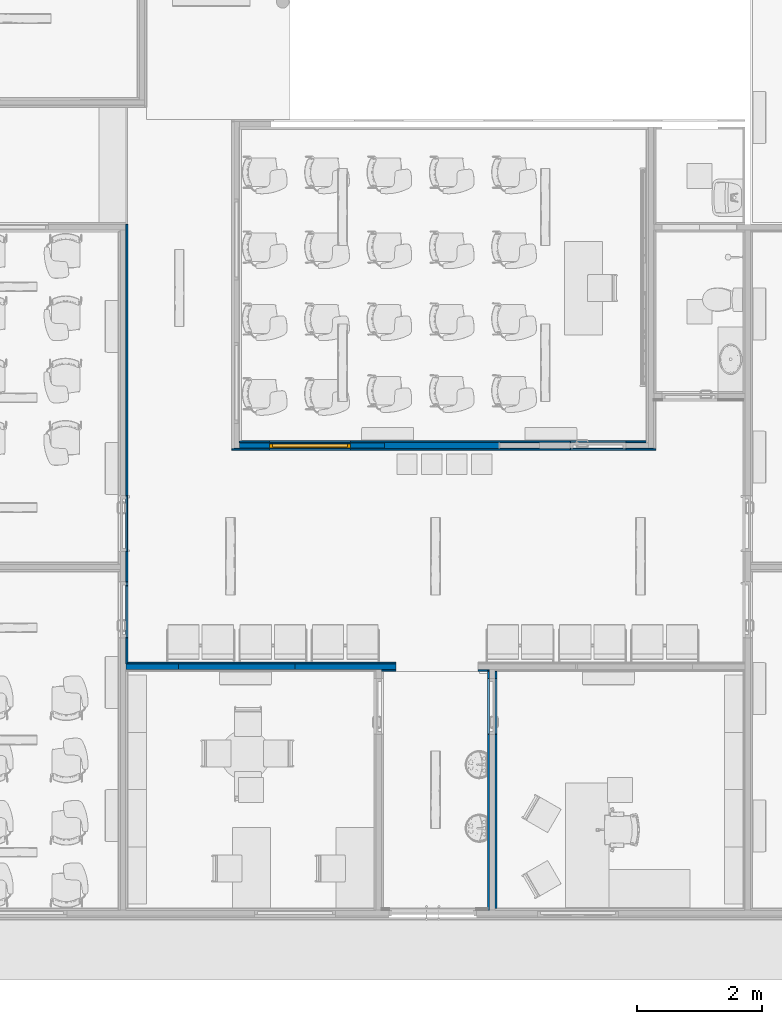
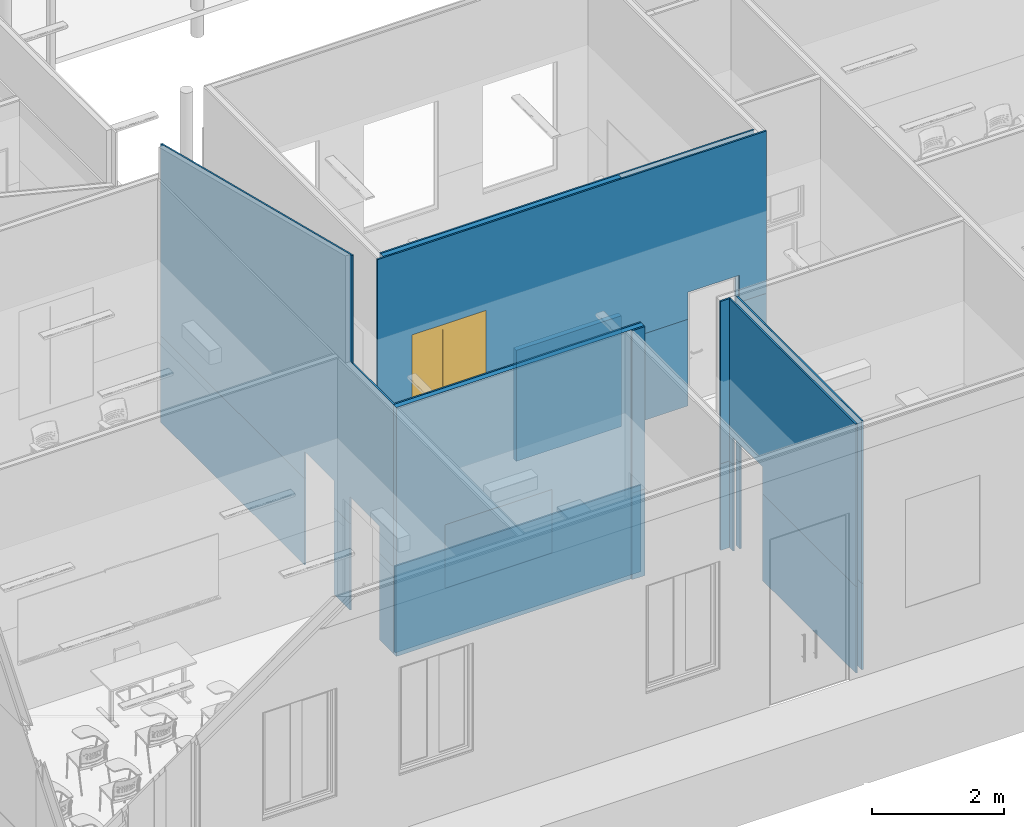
# One storey, part 11 of 155: 20 walls, 1 window, 20 openings.
"""IFC2X3 building model written with IfcOpenShell, lengths in metres."""

from ifc_helpers import new_model, entity, si_unit, converted_unit, derived_unit, direction, frame, frame_2d, origin, origin_2d_with_axis, place, context, subcontext, project, spatial, polyline, rectangle, outline, extrude, clip, bounded_halfspace, source, transform, mapped, material, layer, layer_set, layer_usage, type_object, type_shapes, element, fill, save


model = new_model("IFC2X3")

# Units and contexts
model_context = context("Model", 3, precision=1e-05, world=origin(), true_north=direction((6.12303176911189e-17, 1.0)))
body_context = subcontext(model_context, "Body", "Model", "MODEL_VIEW")
ifc_project = project(units=[si_unit("LENGTHUNIT", "METRE"), si_unit("AREAUNIT", "SQUARE_METRE"), si_unit("VOLUMEUNIT", "CUBIC_METRE"), converted_unit("PLANEANGLEUNIT", "DEGREE", entity("IfcRatioMeasure", 0.0174532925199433), si_unit("PLANEANGLEUNIT", "RADIAN"), dimensions=[0, 0, 0, 0, 0, 0, 0]), si_unit("MASSUNIT", "GRAM", prefix="KILO"), derived_unit("MASSDENSITYUNIT", [(si_unit("MASSUNIT", "GRAM", prefix="KILO"), 1), (si_unit("LENGTHUNIT", "METRE"), -3)]), si_unit("TIMEUNIT", "SECOND"), si_unit("FREQUENCYUNIT", "HERTZ"), si_unit("THERMODYNAMICTEMPERATUREUNIT", "DEGREE_CELSIUS"), derived_unit("THERMALTRANSMITTANCEUNIT", [(si_unit("MASSUNIT", "GRAM", prefix="KILO"), 1), (si_unit("THERMODYNAMICTEMPERATUREUNIT", "KELVIN"), -1), (si_unit("TIMEUNIT", "SECOND"), -3)]), derived_unit("VOLUMETRICFLOWRATEUNIT", [(si_unit("LENGTHUNIT", "METRE"), 3), (si_unit("TIMEUNIT", "SECOND"), -1)]), si_unit("ELECTRICCURRENTUNIT", "AMPERE"), si_unit("ELECTRICVOLTAGEUNIT", "VOLT"), si_unit("POWERUNIT", "WATT"), si_unit("FORCEUNIT", "NEWTON", prefix="KILO"), si_unit("ILLUMINANCEUNIT", "LUX"), si_unit("LUMINOUSFLUXUNIT", "LUMEN"), si_unit("LUMINOUSINTENSITYUNIT", "CANDELA"), derived_unit("USERDEFINED", [(si_unit("MASSUNIT", "GRAM", prefix="KILO"), -1), (si_unit("LENGTHUNIT", "METRE"), -2), (si_unit("TIMEUNIT", "SECOND"), 3), (si_unit("LUMINOUSFLUXUNIT", "LUMEN"), 1)]), derived_unit("LINEARVELOCITYUNIT", [(si_unit("LENGTHUNIT", "METRE"), 1), (si_unit("TIMEUNIT", "SECOND"), -1)]), si_unit("PRESSUREUNIT", "PASCAL"), derived_unit("USERDEFINED", [(si_unit("LENGTHUNIT", "METRE"), -2), (si_unit("MASSUNIT", "GRAM", prefix="KILO"), 1), (si_unit("TIMEUNIT", "SECOND"), -2)])], contexts=[model_context])

# Site, building, storey
site_placement = place(None, frame((26.9889013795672, -17.5624287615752, 0.0)))
site = spatial("IfcSite", under=ifc_project, at=site_placement, Name="Default", CompositionType="ELEMENT")
building_placement = place(site_placement, origin())
building = spatial("IfcBuilding", under=site, at=building_placement, Name="C. C. L. Monsenhor Antônio Sampaio", CompositionType="ELEMENT")
storey_placement = place(building_placement, frame((0.0, 0.0, 1.19999999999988)))
storey = spatial("IfcBuildingStorey", under=building, at=storey_placement, Name="Nível 1.2", CompositionType="ELEMENT", Elevation=1.19999999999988)

# Wall, opening
ifc_material_1 = material(Name="ALVENARIA")
ifc_layer_1 = layer(ifc_material_1, 0.09)
ifc_layer_set_1 = layer_set([ifc_layer_1], Name="Parede básica:ENucleo parede 15cm")
ifc_layer_usage_1 = layer_usage(ifc_layer_set_1, "AXIS2", "POSITIVE", -0.045)
wall_type_1 = type_object("IfcWallType", Name="Parede básica:ENucleo parede 15cm", PredefinedType="STANDARD", material=ifc_layer_set_1)
wall_1_placement = place(storey_placement, frame((-6.17055229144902, -35.4280663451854, 0.0)))
wall_1 = element("IfcWallStandardCase", 1, at=wall_1_placement, inside=storey, type_object=wall_type_1, material=ifc_layer_usage_1, Name="Parede básica:ENucleo parede 15cm", ObjectType="Parede básica:ENucleo parede 15cm", context=body_context, shape_type="SweptSolid", body=[
    extrude(rectangle(XDim=4.3300000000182, YDim=0.0899999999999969, at=frame_2d((2.1650000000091, -1.28369537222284e-16), x_axis=(-1.0, 0.0))), origin(), (0.0, 0.0, 1.0), 4.60000000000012),
])
opening_1_placement = place(wall_1_placement, frame((6.17055229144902, 35.4280663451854, 0.0)))
element("IfcOpeningElement", 2, at=opening_1_placement, cuts=wall_1, Name="Parede básica:ENucleo parede 15cm", ObjectType="Opening", context=body_context, shape_type="SweptSolid", body=[
    extrude(rectangle(XDim=1.17000000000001, YDim=1.87, at=frame_2d((0.0, -4.44089209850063e-16), x_axis=(0.0, 1.0))), frame((-4.39055229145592, -36.9070663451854, 1.55000000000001), z_axis=(0.0, 1.0, 0.0), x_axis=(-1.0, 0.0, 0.0)), (0.0, 0.0, 1.0), 3.048),
])

# Wall, openings, window
ifc_layer_usage_2 = layer_usage(ifc_layer_set_1, "AXIS2", "POSITIVE", -0.045)
wall_2_placement = place(storey_placement, frame((-0.190552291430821, -31.8780663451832, 0.0), z_axis=(0.0, 0.0, 1.0), x_axis=(-1.0, 0.0, 0.0)))
wall_2 = element("IfcWallStandardCase", 3, at=wall_2_placement, inside=storey, type_object=wall_type_1, material=ifc_layer_usage_2, Name="Parede básica:ENucleo parede 15cm", ObjectType="Parede básica:ENucleo parede 15cm", context=body_context, shape_type="SweptSolid", body=[
    extrude(rectangle(XDim=4.1600000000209, YDim=0.0899999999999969, at=frame_2d((2.08000000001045, 2.77555756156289e-16), x_axis=(-1.0, 0.0))), origin(), (0.0, 0.0, 1.0), 4.60000000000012),
])
opening_2_placement = place(wall_2_placement, origin())
element("IfcOpeningElement", 4, at=opening_2_placement, cuts=wall_2, Name="Parede básica:ENucleo parede 15cm", ObjectType="Opening", context=body_context, shape_type="SweptSolid", body=[
    extrude(rectangle(XDim=2.0, YDim=1.30000000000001, at=frame_2d((1.66533453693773e-16, 0.0), x_axis=(1.0, 0.0))), frame((-1.29998629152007, -1.569, 2.0), z_axis=(0.0, 1.0, 0.0), x_axis=(0.0, 0.0, 1.0)), (0.0, 0.0, 1.0), 3.048),
])
opening_3_placement = place(wall_2_placement, origin())
element("IfcOpeningElement", 5, at=opening_3_placement, cuts=wall_2, Name="Parede básica:ENucleo parede 15cm", ObjectType="Opening", context=body_context, shape_type="SweptSolid", body=[
    extrude(rectangle(XDim=2.09999999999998, YDim=0.9, at=frame_2d((-3.33066907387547e-16, 0.0), x_axis=(1.0, 0.0))), frame((-1.59498629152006, -1.569, 1.04999999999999), z_axis=(0.0, 1.0, 0.0), x_axis=(0.0, 0.0, 1.0)), (0.0, 0.0, 1.0), 3.048),
])
opening_4_placement = place(wall_2_placement, frame((-0.190552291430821, -31.8780663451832, 0.0), z_axis=(0.0, 0.0, 1.0), x_axis=(-1.0, 0.0, 0.0)))
element("IfcOpeningElement", 6, at=opening_4_placement, cuts=wall_2, Name="Parede básica:ENucleo parede 15cm", ObjectType="Opening", context=body_context, shape_type="SweptSolid", body=[
    extrude(rectangle(XDim=2.05, YDim=1.85, at=frame_2d((0.0, 0.0), x_axis=(0.0, 1.0))), frame((-1.10055229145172, -30.3990663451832, 1.025), z_axis=(0.0, -1.0, 0.0), x_axis=(1.0, 0.0, 0.0)), (0.0, 0.0, 1.0), 3.048),
])
opening_5_placement = place(wall_2_placement, frame((2.38000000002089, -0.0450000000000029, 1.0)))
opening_5 = element("IfcOpeningElement", 7, at=opening_5_placement, cuts=wall_2, Name="Janela levantamento:130 x 200cm 2:1", ObjectType="Opening", context=body_context, shape_type="SweptSolid", body=[
    extrude(rectangle(XDim=2.0, YDim=1.30000000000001, at=frame_2d((0.999999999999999, 0.650000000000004), x_axis=(1.0, 0.0))), frame((0.0, 0.0, 0.0), z_axis=(0.0, 1.0, 0.0), x_axis=(0.0, 0.0, 1.0)), (0.0, 0.0, 1.0), 0.09),
])
ifc_material_2 = material(Name="Pintura Azul")
window_style = type_object("IfcWindowStyle", Name="130 x 200cm 2", ConstructionType="NOTDEFINED", OperationType="NOTDEFINED", ParameterTakesPrecedence=False, Sizeable=False, material=ifc_material_2)
shared_shape = source(origin(), body_context, "Body", "SweptSolid", [
    extrude(rectangle(XDim=1.3, YDim=0.0209999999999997, at=frame_2d((0.0, 4.33680868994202e-18), x_axis=(1.0, 0.0))), frame((0.650000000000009, 0.0795000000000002, 0.0)), (0.0, 0.0, 1.0), 0.0299999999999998),
    extrude(outline(polyline([(-0.325000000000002, -1.0), (0.325000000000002, -1.0), (0.325000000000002, 1.0), (-0.325000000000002, 1.0), (-0.325000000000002, -1.0)]), holes=[polyline([(0.225000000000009, -0.899999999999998), (-0.225000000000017, -0.899999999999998), (-0.225000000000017, 0.900000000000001), (0.225000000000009, 0.900000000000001), (0.225000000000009, -0.899999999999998)])]), frame((0.325000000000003, 0.0690000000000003, 1.0), z_axis=(0.0, 1.0, 0.0), x_axis=(1.0, 0.0, 0.0)), (0.0, 0.0, 1.0), 0.04),
    extrude(outline(polyline([(-0.650000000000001, -1.0), (0.650000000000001, -1.0), (0.650000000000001, 1.0), (-0.650000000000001, 1.0), (-0.650000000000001, -1.0)]), holes=[polyline([(-0.599999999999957, -0.949999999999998), (-0.599999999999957, 0.94), (0.600000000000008, 0.94), (0.600000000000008, -0.949999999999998), (-0.599999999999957, -0.949999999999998)])]), frame((0.650000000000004, 0.019, 1.0), z_axis=(0.0, 1.0, 0.0), x_axis=(1.0, 0.0, 0.0)), (0.0, 0.0, 1.0), 0.05),
    extrude(rectangle(XDim=0.0205880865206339, YDim=0.450000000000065, at=origin_2d_with_axis()), frame((0.324999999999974, 0.0987059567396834, 0.0999999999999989), z_axis=(0.0, 0.0, 1.0), x_axis=(0.0, 1.0, 0.0)), (0.0, 0.0, 1.0), 1.8),
    extrude(rectangle(XDim=0.0205880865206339, YDim=0.449999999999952, at=frame_2d((0.0, 4.16333634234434e-17), x_axis=(1.0, 0.0))), frame((0.977826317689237, 0.0987059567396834, 0.100000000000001), z_axis=(0.0, 0.0, 1.0), x_axis=(0.0, 1.0, 0.0)), (0.0, 0.0, 1.0), 1.8),
    extrude(outline(polyline([(-1.0, -0.325000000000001), (1.0, -0.325000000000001), (1.0, 0.325000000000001), (-1.0, 0.325000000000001), (-1.0, -0.325000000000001)]), holes=[polyline([(-0.899999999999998, 0.224999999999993), (0.900000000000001, 0.224999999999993), (0.900000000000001, -0.225000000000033), (-0.899999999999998, -0.225000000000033), (-0.899999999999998, 0.224999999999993)])]), frame((0.975000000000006, 0.0690000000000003, 1.0), z_axis=(0.0, 1.0, 0.0), x_axis=(0.0, 0.0, -1.0)), (0.0, 0.0, 1.0), 0.04),
])
type_shapes(window_style, [shared_shape])
window_placement = place(opening_5_placement, origin())
window = element("IfcWindow", 8, at=window_placement, inside=storey, type_object=window_style, material=ifc_material_2, Name="Janela levantamento:130 x 200cm 2", ObjectType="130 x 200cm 2", OverallHeight=2.0, OverallWidth=1.30000000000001, context=body_context, shape_type="MappedRepresentation", body=[
    mapped(shared_shape, transform((0.0, 0.0, 0.0), scale=1.0)),
])
fill(opening_5, window)

# Wall
ifc_layer_usage_3 = layer_usage(ifc_layer_set_1, "AXIS2", "POSITIVE", -0.045)
wall_3_placement = place(storey_placement, frame((-5.32555229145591, -35.4280663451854, 0.965000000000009)))
element("IfcWallStandardCase", 9, at=wall_3_placement, inside=storey, type_object=wall_type_1, material=ifc_layer_usage_3, Name="Parede básica:ENucleo parede 15cm", ObjectType="Parede básica:ENucleo parede 15cm", context=body_context, shape_type="SweptSolid", body=[
    extrude(rectangle(XDim=1.87, YDim=0.0900000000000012, at=origin_2d_with_axis()), frame((0.934999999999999, 0.0, 0.0), z_axis=(0.0, 0.0, 1.0), x_axis=(-1.0, 0.0, 0.0)), (0.0, 0.0, 1.0), 1.17000000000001),
])

# Wall, opening
ifc_layer_usage_4 = layer_usage(ifc_layer_set_1, "AXIS2", "POSITIVE", -0.045)
wall_4_placement = place(storey_placement, frame((-0.190552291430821, -31.8780663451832, 0.0), z_axis=(0.0, 0.0, 1.0), x_axis=(-1.0, 0.0, 0.0)))
wall_4 = element("IfcWallStandardCase", 10, at=wall_4_placement, inside=storey, type_object=wall_type_1, material=ifc_layer_usage_4, Name="Parede básica:ENucleo parede 15cm", ObjectType="Parede básica:ENucleo parede 15cm", context=body_context, shape_type="SweptSolid", body=[
    extrude(rectangle(XDim=1.8350000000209, YDim=0.0899999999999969, at=frame_2d((0.917500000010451, 8.22258927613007e-16), x_axis=(-1.0, 0.0))), origin(), (0.0, 0.0, 1.0), 2.05),
])
opening_6_placement = place(wall_4_placement, origin())
element("IfcOpeningElement", 11, at=opening_6_placement, cuts=wall_4, Name="Parede básica:ENucleo parede 15cm", ObjectType="Opening", context=body_context, shape_type="SweptSolid", body=[
    extrude(rectangle(XDim=2.09999999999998, YDim=0.9, at=frame_2d((-3.33066907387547e-16, 0.0), x_axis=(1.0, 0.0))), frame((-1.59498629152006, -1.569, 1.04999999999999), z_axis=(0.0, 1.0, 0.0), x_axis=(0.0, 0.0, 1.0)), (0.0, 0.0, 1.0), 3.048),
])

# Walls
ifc_material_3 = material(Name=".CERÂMICA 10x10 BRANCA")
ifc_layer_2 = layer(ifc_material_3, 0.0035)
ifc_material_4 = material(Name="Argamassa Colante")
ifc_layer_3 = layer(ifc_material_4, 0.02)
ifc_material_5 = material(Name="4")
ifc_layer_4 = layer(ifc_material_5, 0.0015)
ifc_material_6 = material(Name="3")
ifc_layer_5 = layer(ifc_material_6, 0.005)
ifc_layer_set_2 = layer_set([ifc_layer_2, ifc_layer_3, ifc_layer_4, ifc_layer_5], Name="Parede básica:ECeramica branca 10x10cm")
wall_type_2 = type_object("IfcWallType", Name="Parede básica:ECeramica branca 10x10cm", PredefinedType="STANDARD", material=ifc_layer_set_2)
wall_5_placement = place(storey_placement, frame((-6.15555229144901, -28.333066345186, 0.0), z_axis=(0.0, 0.0, 1.0), x_axis=(0.0, -1.0, 0.0)))
element("IfcWall", 12, at=wall_5_placement, inside=storey, type_object=wall_type_2, Name="Parede básica:ECeramica branca 10x10cm", ObjectType="Parede básica:ECeramica branca 10x10cm", context=body_context, shape_type="SweptSolid", body=[
    extrude(rectangle(XDim=4.35000000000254, YDim=0.0299999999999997, at=frame_2d((0.41700000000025, 0.00299999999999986), x_axis=(1.0, 0.0))), frame((1.75800000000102, -0.00299999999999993, 0.0)), (0.0, 0.0, 1.0), 1.6),
    extrude(rectangle(XDim=0.42, YDim=0.0299999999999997, at=frame_2d((0.0360000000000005, 0.00299999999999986), x_axis=(1.0, 0.0))), frame((6.87599999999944, 0.0030000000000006, 0.0), z_axis=(0.0, 0.0, 1.0), x_axis=(-1.0, 0.0, 0.0)), (0.0, 0.0, 1.0), 1.6),
    extrude(rectangle(XDim=0.479999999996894, YDim=0.0299999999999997, at=frame_2d((0.0, 5.41233724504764e-16), x_axis=(1.0, 0.0))), frame((5.49000000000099, 0.0, 0.0), z_axis=(0.0, 0.0, 1.0), x_axis=(-1.0, 0.0, 0.0)), (0.0, 0.0, 1.0), 1.6),
])
ifc_layer_usage_5 = layer_usage(ifc_layer_set_2, "AXIS2", "NEGATIVE", 0.015)
wall_6_placement = place(storey_placement, frame((-6.14055229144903, -35.3680663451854, 0.0)))
element("IfcWallStandardCase", 13, at=wall_6_placement, inside=storey, type_object=wall_type_2, material=ifc_layer_usage_5, Name="Parede básica:ECeramica branca 10x10cm", ObjectType="Parede básica:ECeramica branca 10x10cm", context=body_context, shape_type="SweptSolid", body=[
    extrude(rectangle(XDim=4.3, YDim=0.0300000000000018, at=frame_2d((2.15, 8.76035355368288e-17), x_axis=(-1.0, 0.0))), origin(), (0.0, 0.0, 1.0), 1.6),
])

# Wall, openings
ifc_layer_usage_6 = layer_usage(ifc_layer_set_2, "AXIS2", "NEGATIVE", 0.015)
wall_7_placement = place(storey_placement, frame((2.32943400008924, -31.9380663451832, 0.0), z_axis=(0.0, 0.0, 1.0), x_axis=(-1.0, 0.0, 0.0)))
wall_7 = element("IfcWallStandardCase", 14, at=wall_7_placement, inside=storey, type_object=wall_type_2, material=ifc_layer_usage_6, Name="Parede básica:ECeramica branca 10x10cm", ObjectType="Parede básica:ECeramica branca 10x10cm", context=body_context, shape_type="SweptSolid", body=[
    extrude(rectangle(XDim=6.79998629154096, YDim=0.0300000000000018, at=frame_2d((3.39999314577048, 9.62771529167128e-17), x_axis=(-1.0, 0.0))), origin(), (0.0, 0.0, 1.0), 1.6),
])
opening_7_placement = place(wall_7_placement, origin())
element("IfcOpeningElement", 15, at=opening_7_placement, cuts=wall_7, Name="Parede básica:ECeramica branca 10x10cm", ObjectType="Opening", context=body_context, shape_type="SweptSolid", body=[
    extrude(rectangle(XDim=2.0, YDim=1.30000000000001, at=frame_2d((1.66533453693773e-16, 0.0), x_axis=(1.0, 0.0))), frame((5.54998629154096, -1.629, 2.0), z_axis=(0.0, 1.0, 0.0), x_axis=(0.0, 0.0, 1.0)), (0.0, 0.0, 1.0), 3.048),
])
opening_8_placement = place(wall_7_placement, origin())
element("IfcOpeningElement", 16, at=opening_8_placement, cuts=wall_7, Name="Parede básica:ECeramica branca 10x10cm", ObjectType="Opening", context=body_context, shape_type="SweptSolid", body=[
    extrude(rectangle(XDim=2.09999999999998, YDim=0.9, at=frame_2d((-3.33066907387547e-16, 0.0), x_axis=(1.0, 0.0))), frame((0.924999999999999, -1.629, 1.04999999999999), z_axis=(0.0, 1.0, 0.0), x_axis=(0.0, 0.0, 1.0)), (0.0, 0.0, 1.0), 3.048),
])

# Wall, opening
ifc_layer_usage_7 = layer_usage(ifc_layer_set_2, "AXIS2", "NEGATIVE", 0.015)
wall_8_placement = place(storey_placement, frame((-0.235552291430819, -35.5030663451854, 0.0), z_axis=(0.0, 0.0, 1.0), x_axis=(0.0, -1.0, 0.0)))
wall_8 = element("IfcWallStandardCase", 17, at=wall_8_placement, inside=storey, type_object=wall_type_2, material=ifc_layer_usage_7, Name="Parede básica:ECeramica branca 10x10cm", ObjectType="Parede básica:ECeramica branca 10x10cm", context=body_context, shape_type="SweptSolid", body=[
    extrude(rectangle(XDim=3.80000000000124, YDim=0.03, at=frame_2d((1.90000000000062, 0.0), x_axis=(-1.0, 0.0))), origin(), (0.0, 0.0, 1.0), 1.6),
])
opening_9_placement = place(wall_8_placement, origin())
element("IfcOpeningElement", 18, at=opening_9_placement, cuts=wall_8, Name="Parede básica:ECeramica branca 10x10cm", ObjectType="Opening", context=body_context, shape_type="SweptSolid", body=[
    extrude(rectangle(XDim=2.09999999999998, YDim=0.899999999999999, at=frame_2d((-3.33066907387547e-16, -2.16493489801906e-15), x_axis=(1.0, 0.0))), frame((0.560000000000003, -1.539, 1.04999999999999), z_axis=(0.0, 1.0, 0.0), x_axis=(0.0, 0.0, 1.0)), (0.0, 0.0, 1.0), 3.048),
])

ifc_layer_usage_8 = layer_usage(ifc_layer_set_2, "AXIS2", "POSITIVE", -0.015)
wall_9_placement = place(storey_placement, frame((-0.355552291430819, -35.4730663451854, 0.0), z_axis=(0.0, 0.0, 1.0), x_axis=(0.0, -1.0, 0.0)))
wall_9 = element("IfcWallStandardCase", 19, at=wall_9_placement, inside=storey, type_object=wall_type_2, material=ifc_layer_usage_8, Name="Parede básica:ECeramica branca 10x10cm", ObjectType="Parede básica:ECeramica branca 10x10cm", context=body_context, shape_type="SweptSolid", body=[
    extrude(rectangle(XDim=3.86000000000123, YDim=0.0299999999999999, at=frame_2d((1.93000000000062, -9.54097911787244e-18), x_axis=(-1.0, 0.0))), origin(), (0.0, 0.0, 1.0), 1.6),
])
opening_10_placement = place(wall_9_placement, origin())
element("IfcOpeningElement", 20, at=opening_10_placement, cuts=wall_9, Name="Parede básica:ECeramica branca 10x10cm", ObjectType="Opening", context=body_context, shape_type="SweptSolid", body=[
    extrude(rectangle(XDim=2.09999999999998, YDim=0.899999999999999, at=frame_2d((-3.33066907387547e-16, -2.16493489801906e-15), x_axis=(1.0, 0.0))), frame((0.590000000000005, -1.419, 1.04999999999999), z_axis=(0.0, 1.0, 0.0), x_axis=(0.0, 0.0, 1.0)), (0.0, 0.0, 1.0), 3.048),
])

# Wall, openings
ifc_layer_usage_9 = layer_usage(ifc_layer_set_2, "AXIS2", "POSITIVE", -0.015)
wall_10_placement = place(storey_placement, frame((2.17943400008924, -31.8180663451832, 0.0), z_axis=(0.0, 0.0, 1.0), x_axis=(-1.0, 0.0, 0.0)))
wall_10 = element("IfcWallStandardCase", 21, at=wall_10_placement, inside=storey, type_object=wall_type_2, material=ifc_layer_usage_9, Name="Parede básica:ECeramica branca 10x10cm", ObjectType="Parede básica:ECeramica branca 10x10cm", context=body_context, shape_type="SweptSolid", body=[
    extrude(rectangle(XDim=6.52998629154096, YDim=0.0300000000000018, at=frame_2d((3.26499314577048, 0.0), x_axis=(-1.0, 0.0))), origin(), (0.0, 0.0, 1.0), 1.6),
])
opening_11_placement = place(wall_10_placement, origin())
element("IfcOpeningElement", 22, at=opening_11_placement, cuts=wall_10, Name="Parede básica:ECeramica branca 10x10cm", ObjectType="Opening", context=body_context, shape_type="SweptSolid", body=[
    extrude(rectangle(XDim=2.0, YDim=1.30000000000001, at=frame_2d((1.66533453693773e-16, 0.0), x_axis=(1.0, 0.0))), frame((5.39998629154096, -1.50899999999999, 2.0), z_axis=(0.0, 1.0, 0.0), x_axis=(0.0, 0.0, 1.0)), (0.0, 0.0, 1.0), 3.048),
])
opening_12_placement = place(wall_10_placement, origin())
element("IfcOpeningElement", 23, at=opening_12_placement, cuts=wall_10, Name="Parede básica:ECeramica branca 10x10cm", ObjectType="Opening", context=body_context, shape_type="SweptSolid", body=[
    extrude(rectangle(XDim=2.09999999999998, YDim=0.9, at=frame_2d((-3.33066907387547e-16, 0.0), x_axis=(1.0, 0.0))), frame((0.775, -1.509, 1.04999999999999), z_axis=(0.0, 1.0, 0.0), x_axis=(0.0, 0.0, 1.0)), (0.0, 0.0, 1.0), 3.048),
])

# Walls
ifc_layer_usage_10 = layer_usage(ifc_layer_set_2, "AXIS2", "POSITIVE", -0.015)
wall_11_placement = place(storey_placement, frame((-0.520552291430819, -35.4880663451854, 0.0)))
element("IfcWallStandardCase", 24, at=wall_11_placement, inside=storey, type_object=wall_type_2, material=ifc_layer_usage_10, Name="Parede básica:ECeramica branca 10x10cm", ObjectType="Parede básica:ECeramica branca 10x10cm", context=body_context, shape_type="SweptSolid", body=[
    extrude(rectangle(XDim=0.150000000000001, YDim=0.0300000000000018, at=frame_2d((0.0750000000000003, 1.88217497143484e-16), x_axis=(-1.0, 0.0))), origin(), (0.0, 0.0, 1.0), 1.6),
])
ifc_layer_usage_11 = layer_usage(ifc_layer_set_2, "AXIS2", "NEGATIVE", 0.015)
wall_12_placement = place(storey_placement, frame((-1.84055229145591, -35.4880663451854, 0.0), z_axis=(0.0, 0.0, 1.0), x_axis=(-1.0, 0.0, 0.0)))
element("IfcWallStandardCase", 25, at=wall_12_placement, inside=storey, type_object=wall_type_2, material=ifc_layer_usage_11, Name="Parede básica:ECeramica branca 10x10cm", ObjectType="Parede básica:ECeramica branca 10x10cm", context=body_context, shape_type="SweptSolid", body=[
    extrude(rectangle(XDim=0.23, YDim=0.0300000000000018, at=frame_2d((0.115, 2.92300905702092e-16), x_axis=(-1.0, 0.0))), origin(), (0.0, 0.0, 1.0), 1.6),
])

# Wall, openings
ifc_material_7 = material(Name="Acabamento Branco")
ifc_layer_6 = layer(ifc_material_7, 0.0035)
ifc_material_8 = material(Name="Massa corrida")
ifc_layer_7 = layer(ifc_material_8, 0.02)
ifc_layer_8 = layer(ifc_material_5, 0.0015)
ifc_layer_9 = layer(ifc_material_6, 0.005)
ifc_layer_set_3 = layer_set([ifc_layer_6, ifc_layer_7, ifc_layer_8, ifc_layer_9], Name="Parede básica:EPintura Branca")
ifc_layer_usage_12 = layer_usage(ifc_layer_set_3, "AXIS2", "NEGATIVE", 0.015)
wall_type_3 = type_object("IfcWallType", Name="Parede básica:EPintura Branca", PredefinedType="STANDARD", material=ifc_layer_set_3)
wall_13_placement = place(storey_placement, frame((-6.15555229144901, -28.333066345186, 1.6), z_axis=(0.0, 0.0, 1.0), x_axis=(0.0, -1.0, 0.0)))
wall_13 = element("IfcWallStandardCase", 26, at=wall_13_placement, inside=storey, type_object=wall_type_3, material=ifc_layer_usage_12, Name="Parede básica:EPintura Branca", ObjectType="Parede básica:EPintura Branca", context=body_context, shape_type="Clipping", body=[
    clip(clip(extrude(rectangle(XDim=7.04999999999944, YDim=0.0299999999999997, at=frame_2d((3.52499999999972, 2.77555756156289e-17), x_axis=(-1.0, 0.0))), origin(), (0.0, 0.0, 1.0), 4.99375000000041), bounded_halfspace(frame((0.0, -0.0149999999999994, 3.54500000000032), z_axis=(-0.242535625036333, 0.0, 0.970142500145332), x_axis=(0.0, -1.0, 0.0)), False, frame((0.0, -0.0149999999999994, 3.54500000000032)), polyline([(0.0, 0.0), (0.0900000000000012, 0.0), (5.74000000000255, 0.0), (5.79500000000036, 0.0), (5.79500000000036, 0.0299999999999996), (0.0, 0.0299999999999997), (0.0, 0.0)]))), bounded_halfspace(frame((7.04999999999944, -0.0149999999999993, 3.0), z_axis=(0.0, 0.0, 1.0), x_axis=(0.0, 1.0, 0.0)), False, frame((7.04999999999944, -0.0149999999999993, 3.0)), polyline([(0.0, 0.0), (0.0, 0.0299999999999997), (-0.0299999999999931, 0.0299999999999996), (-1.25499999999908, 0.0299999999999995), (-1.25499999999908, 0.0), (0.0, 0.0)]))),
])
opening_13_placement = place(wall_13_placement, origin())
element("IfcOpeningElement", 27, at=opening_13_placement, cuts=wall_13, Name="Parede básica:EPintura Branca", ObjectType="Opening", context=body_context, shape_type="SweptSolid", body=[
    extrude(rectangle(XDim=2.09999999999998, YDim=0.899999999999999, at=frame_2d((-3.33066907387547e-16, 2.16493489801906e-15), x_axis=(1.0, 0.0))), frame((6.17999999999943, -1.629, -0.550000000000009), z_axis=(0.0, 1.0, 0.0), x_axis=(0.0, 0.0, 1.0)), (0.0, 0.0, 1.0), 3.048),
])
opening_14_placement = place(wall_13_placement, origin())
element("IfcOpeningElement", 28, at=opening_14_placement, cuts=wall_13, Name="Parede básica:EPintura Branca", ObjectType="Opening", context=body_context, shape_type="SweptSolid", body=[
    extrude(rectangle(XDim=2.09999999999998, YDim=0.900000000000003, at=frame_2d((0.0, 0.0), x_axis=(0.0, 1.0))), frame((4.80000000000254, -1.629, -0.550000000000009), z_axis=(0.0, 1.0, 0.0), x_axis=(-1.0, 0.0, 0.0)), (0.0, 0.0, 1.0), 3.048),
])

# Wall
ifc_layer_usage_13 = layer_usage(ifc_layer_set_3, "AXIS2", "NEGATIVE", 0.015)
wall_14_placement = place(storey_placement, frame((-6.14055229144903, -35.3680663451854, 1.6)))
element("IfcWallStandardCase", 29, at=wall_14_placement, inside=storey, type_object=wall_type_3, material=ifc_layer_usage_13, Name="Parede básica:EPintura Branca", ObjectType="Parede básica:EPintura Branca", context=body_context, shape_type="SweptSolid", body=[
    extrude(rectangle(XDim=4.3, YDim=0.0300000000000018, at=frame_2d((2.15, 8.76035355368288e-17), x_axis=(-1.0, 0.0))), origin(), (0.0, 0.0, 1.0), 3.00000000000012),
])

# Wall, openings
ifc_layer_usage_14 = layer_usage(ifc_layer_set_3, "AXIS2", "NEGATIVE", 0.015)
wall_15_placement = place(storey_placement, frame((2.32943400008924, -31.9380663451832, 1.6), z_axis=(0.0, 0.0, 1.0), x_axis=(-1.0, 0.0, 0.0)))
wall_15 = element("IfcWallStandardCase", 30, at=wall_15_placement, inside=storey, type_object=wall_type_3, material=ifc_layer_usage_14, Name="Parede básica:EPintura Branca", ObjectType="Parede básica:EPintura Branca", context=body_context, shape_type="SweptSolid", body=[
    extrude(rectangle(XDim=6.79998629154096, YDim=0.0300000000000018, at=frame_2d((3.39999314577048, 9.62771529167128e-17), x_axis=(-1.0, 0.0))), origin(), (0.0, 0.0, 1.0), 3.00000000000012),
])
opening_15_placement = place(wall_15_placement, origin())
element("IfcOpeningElement", 31, at=opening_15_placement, cuts=wall_15, Name="Parede básica:EPintura Branca", ObjectType="Opening", context=body_context, shape_type="SweptSolid", body=[
    extrude(rectangle(XDim=2.0, YDim=1.30000000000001, at=frame_2d((1.66533453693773e-16, 0.0), x_axis=(1.0, 0.0))), frame((5.54998629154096, -1.629, 0.400000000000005), z_axis=(0.0, 1.0, 0.0), x_axis=(0.0, 0.0, 1.0)), (0.0, 0.0, 1.0), 3.048),
])
opening_16_placement = place(wall_15_placement, origin())
element("IfcOpeningElement", 32, at=opening_16_placement, cuts=wall_15, Name="Parede básica:EPintura Branca", ObjectType="Opening", context=body_context, shape_type="SweptSolid", body=[
    extrude(rectangle(XDim=2.09999999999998, YDim=0.9, at=frame_2d((-3.33066907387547e-16, 0.0), x_axis=(1.0, 0.0))), frame((0.924999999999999, -1.629, -0.550000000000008), z_axis=(0.0, 1.0, 0.0), x_axis=(0.0, 0.0, 1.0)), (0.0, 0.0, 1.0), 3.048),
])

# Wall, opening
ifc_layer_usage_15 = layer_usage(ifc_layer_set_3, "AXIS2", "NEGATIVE", 0.015)
wall_16_placement = place(storey_placement, frame((-0.235552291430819, -35.5030663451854, 1.6), z_axis=(0.0, 0.0, 1.0), x_axis=(0.0, -1.0, 0.0)))
wall_16 = element("IfcWallStandardCase", 33, at=wall_16_placement, inside=storey, type_object=wall_type_3, material=ifc_layer_usage_15, Name="Parede básica:EPintura Branca", ObjectType="Parede básica:EPintura Branca", context=body_context, shape_type="SweptSolid", body=[
    extrude(rectangle(XDim=3.80000000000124, YDim=0.03, at=frame_2d((1.90000000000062, 0.0), x_axis=(-1.0, 0.0))), origin(), (0.0, 0.0, 1.0), 3.00000000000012),
])
opening_17_placement = place(wall_16_placement, origin())
element("IfcOpeningElement", 34, at=opening_17_placement, cuts=wall_16, Name="Parede básica:EPintura Branca", ObjectType="Opening", context=body_context, shape_type="SweptSolid", body=[
    extrude(rectangle(XDim=2.09999999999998, YDim=0.899999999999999, at=frame_2d((-3.33066907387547e-16, -2.16493489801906e-15), x_axis=(1.0, 0.0))), frame((0.560000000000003, -1.539, -0.550000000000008), z_axis=(0.0, 1.0, 0.0), x_axis=(0.0, 0.0, 1.0)), (0.0, 0.0, 1.0), 3.048),
])

ifc_layer_usage_16 = layer_usage(ifc_layer_set_3, "AXIS2", "POSITIVE", -0.015)
wall_17_placement = place(storey_placement, frame((-0.355552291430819, -35.5030663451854, 1.6), z_axis=(0.0, 0.0, 1.0), x_axis=(0.0, -1.0, 0.0)))
wall_17 = element("IfcWallStandardCase", 35, at=wall_17_placement, inside=storey, type_object=wall_type_3, material=ifc_layer_usage_16, Name="Parede básica:EPintura Branca", ObjectType="Parede básica:EPintura Branca", context=body_context, shape_type="SweptSolid", body=[
    extrude(rectangle(XDim=3.83000000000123, YDim=0.0299999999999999, at=frame_2d((1.91500000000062, 0.0), x_axis=(-1.0, 0.0))), origin(), (0.0, 0.0, 1.0), 3.00000000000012),
])
opening_18_placement = place(wall_17_placement, origin())
element("IfcOpeningElement", 36, at=opening_18_placement, cuts=wall_17, Name="Parede básica:EPintura Branca", ObjectType="Opening", context=body_context, shape_type="SweptSolid", body=[
    extrude(rectangle(XDim=2.09999999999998, YDim=0.899999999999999, at=frame_2d((-3.33066907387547e-16, -2.16493489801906e-15), x_axis=(1.0, 0.0))), frame((0.560000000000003, -1.419, -0.550000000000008), z_axis=(0.0, 1.0, 0.0), x_axis=(0.0, 0.0, 1.0)), (0.0, 0.0, 1.0), 3.048),
])

# Wall, openings
ifc_layer_usage_17 = layer_usage(ifc_layer_set_3, "AXIS2", "POSITIVE", -0.015)
wall_18_placement = place(storey_placement, frame((2.17943400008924, -31.8180663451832, 1.6), z_axis=(0.0, 0.0, 1.0), x_axis=(-1.0, 0.0, 0.0)))
wall_18 = element("IfcWallStandardCase", 37, at=wall_18_placement, inside=storey, type_object=wall_type_3, material=ifc_layer_usage_17, Name="Parede básica:EPintura Branca", ObjectType="Parede básica:EPintura Branca", context=body_context, shape_type="SweptSolid", body=[
    extrude(rectangle(XDim=6.52998629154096, YDim=0.0300000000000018, at=frame_2d((3.26499314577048, 0.0), x_axis=(-1.0, 0.0))), origin(), (0.0, 0.0, 1.0), 3.00000000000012),
])
opening_19_placement = place(wall_18_placement, origin())
element("IfcOpeningElement", 38, at=opening_19_placement, cuts=wall_18, Name="Parede básica:EPintura Branca", ObjectType="Opening", context=body_context, shape_type="SweptSolid", body=[
    extrude(rectangle(XDim=2.0, YDim=1.30000000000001, at=frame_2d((1.66533453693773e-16, 0.0), x_axis=(1.0, 0.0))), frame((5.39998629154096, -1.50899999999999, 0.400000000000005), z_axis=(0.0, 1.0, 0.0), x_axis=(0.0, 0.0, 1.0)), (0.0, 0.0, 1.0), 3.048),
])
opening_20_placement = place(wall_18_placement, origin())
element("IfcOpeningElement", 39, at=opening_20_placement, cuts=wall_18, Name="Parede básica:EPintura Branca", ObjectType="Opening", context=body_context, shape_type="SweptSolid", body=[
    extrude(rectangle(XDim=2.09999999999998, YDim=0.9, at=frame_2d((-3.33066907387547e-16, 0.0), x_axis=(1.0, 0.0))), frame((0.775, -1.509, -0.550000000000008), z_axis=(0.0, 1.0, 0.0), x_axis=(0.0, 0.0, 1.0)), (0.0, 0.0, 1.0), 3.048),
])

# Walls
ifc_layer_usage_18 = layer_usage(ifc_layer_set_3, "AXIS2", "POSITIVE", -0.015)
wall_19_placement = place(storey_placement, frame((-0.520552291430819, -35.4880663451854, 1.6)))
element("IfcWallStandardCase", 40, at=wall_19_placement, inside=storey, type_object=wall_type_3, material=ifc_layer_usage_18, Name="Parede básica:EPintura Branca", ObjectType="Parede básica:EPintura Branca", context=body_context, shape_type="SweptSolid", body=[
    extrude(rectangle(XDim=0.18, YDim=0.0300000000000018, at=frame_2d((0.0900000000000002, 2.24646690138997e-16), x_axis=(-1.0, 0.0))), origin(), (0.0, 0.0, 1.0), 3.00000000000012),
])
ifc_layer_usage_19 = layer_usage(ifc_layer_set_3, "AXIS2", "NEGATIVE", 0.015)
wall_20_placement = place(storey_placement, frame((-1.84055229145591, -35.4880663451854, 1.6), z_axis=(0.0, 0.0, 1.0), x_axis=(-1.0, 0.0, 0.0)))
element("IfcWallStandardCase", 41, at=wall_20_placement, inside=storey, type_object=wall_type_3, material=ifc_layer_usage_19, Name="Parede básica:EPintura Branca", ObjectType="Parede básica:EPintura Branca", context=body_context, shape_type="SweptSolid", body=[
    extrude(rectangle(XDim=0.23, YDim=0.0300000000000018, at=frame_2d((0.115, 2.92300905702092e-16), x_axis=(-1.0, 0.0))), origin(), (0.0, 0.0, 1.0), 3.00000000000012),
])

save(model, "model.ifc")
